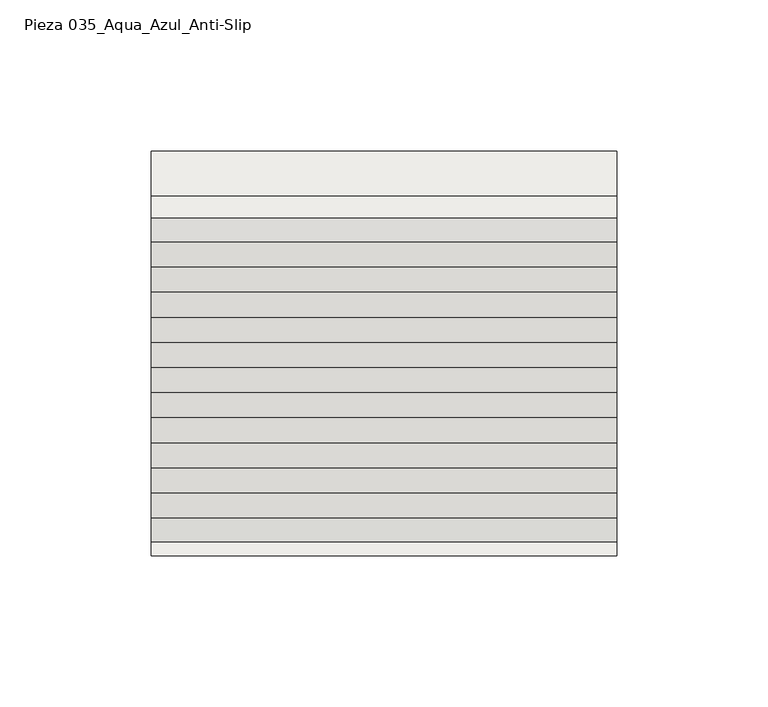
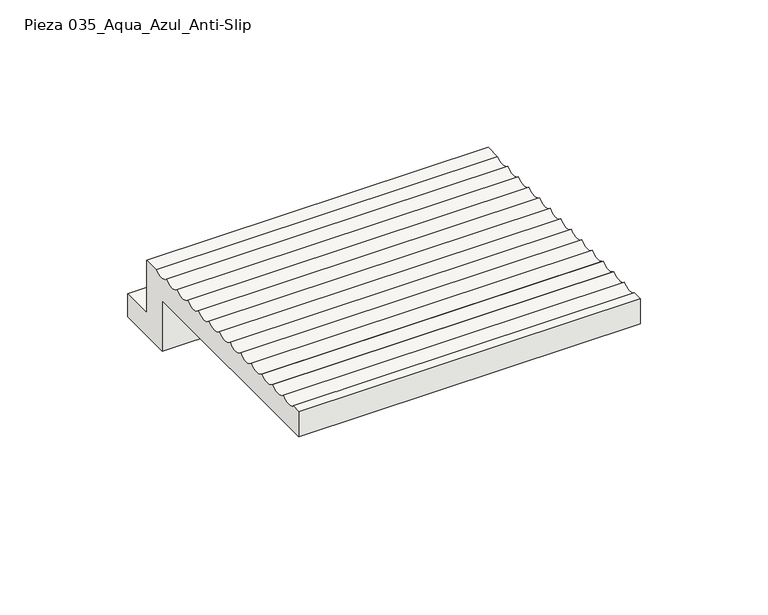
"""IFC4 building model written with IfcOpenShell, lengths in millimetres: slab geometry, ROSA GRES_035 : Pieza 035_Aqua_Azul_Anti-Slip."""

from ifc_helpers import new_model, si_unit, point, frame, frame_2d, origin, place, context, project, spatial, polyline, circle_curve, trimmed, segment, composite_curve, outline, extrude, source, transform, mapped, element, save


def pieza_035_aqua_azul_anti_slip_ff070b21(model_context):
    return source(origin(), model_context, "Body", "SweptSolid", [
        extrude(outline(composite_curve([segment(polyline([(-511.1821026, 191.3274907), (-511.1821026, 215.3274907), (-618.1821026, 215.3274907), (-618.1821026, 227.2926815), (-613.6860009, 227.2926815)]), True, "CONTINUOUS"), segment(trimmed(circle_curve(frame_2d((-609.8807503, 231.7505669)), 5.8611155), [point((-613.6860009, 227.2926815))], [point((-605.7277929, 227.6146729))], True, "CARTESIAN"), True, "CONTINUOUS"), segment(trimmed(circle_curve(frame_2d((-601.5775039, 231.7532445)), 5.8611155), [point((-605.7277929, 227.6146729))], [point((-597.4245465, 227.6173505))], True, "CARTESIAN"), True, "CONTINUOUS"), segment(trimmed(circle_curve(frame_2d((-593.2742574, 231.7559221)), 5.8611155), [point((-597.4245465, 227.6173505))], [point((-589.1213, 227.6200281))], True, "CARTESIAN"), True, "CONTINUOUS"), segment(trimmed(circle_curve(frame_2d((-584.9710109, 231.7585998)), 5.8611155), [point((-589.1213, 227.6200281))], [point((-580.8180535, 227.6227058))], True, "CARTESIAN"), True, "CONTINUOUS"), segment(trimmed(circle_curve(frame_2d((-576.6677645, 231.7612774)), 5.8611155), [point((-580.8180535, 227.6227058))], [point((-572.5148071, 227.6253834))], True, "CARTESIAN"), True, "CONTINUOUS"), segment(trimmed(circle_curve(frame_2d((-568.364518, 231.763955)), 5.8611155), [point((-572.5148071, 227.6253834))], [point((-564.2115606, 227.628061))], True, "CARTESIAN"), True, "CONTINUOUS"), segment(trimmed(circle_curve(frame_2d((-560.0612716, 231.7666327)), 5.8611155), [point((-564.2115606, 227.628061))], [point((-555.9083142, 227.6307387))], True, "CARTESIAN"), True, "CONTINUOUS"), segment(trimmed(circle_curve(frame_2d((-551.7580251, 231.7693103)), 5.8611155), [point((-555.9083142, 227.6307387))], [point((-547.6050677, 227.6334163))], True, "CARTESIAN"), True, "CONTINUOUS"), segment(trimmed(circle_curve(frame_2d((-543.4547786, 231.7719879)), 5.8611155), [point((-547.6050677, 227.6334163))], [point((-539.3018212, 227.6360939))], True, "CARTESIAN"), True, "CONTINUOUS"), segment(trimmed(circle_curve(frame_2d((-535.1515322, 231.7746656)), 5.8611155), [point((-539.3018212, 227.6360939))], [point((-530.9985748, 227.6387716))], True, "CARTESIAN"), True, "CONTINUOUS"), segment(trimmed(circle_curve(frame_2d((-526.8482857, 231.7773432)), 5.8611155), [point((-530.9985748, 227.6387716))], [point((-522.6953283, 227.6414492))], True, "CARTESIAN"), True, "CONTINUOUS"), segment(trimmed(circle_curve(frame_2d((-518.5450393, 231.7800208)), 5.8611155), [point((-522.6953283, 227.6414492))], [point((-514.3920818, 227.6441268))], True, "CARTESIAN"), True, "CONTINUOUS"), segment(trimmed(circle_curve(frame_2d((-510.2417928, 231.7826985)), 5.8611155), [point((-514.3920818, 227.6441268))], [point((-506.4334076, 227.3274907))], True, "CARTESIAN"), True, "CONTINUOUS"), segment(polyline([(-506.4334076, 227.3274907), (-499.1821026, 227.3274907), (-499.1821026, 202.3274907), (-484.1821026, 202.3274907), (-484.1821026, 191.3274907), (-511.1821026, 191.3274907)]), True, "CONTINUOUS")], self_intersect=False)), frame((0.0, 0.0, 0.0), z_axis=(1.0, 0.0, 0.0), x_axis=(0.0, 1.0, 0.0)), (0.0, 0.0, 1.0), 154.2086912),
    ])


if __name__ == "__main__":
    model = new_model("IFC4")
    model_context = context("Model", 3, world=origin())
    ifc_project = project(units=[si_unit("LENGTHUNIT", "METRE", prefix="MILLI")], contexts=[model_context])
    site = spatial("IfcSite", under=ifc_project)
    building = spatial("IfcBuilding", under=site)
    placement = place(None, origin())
    pieza_035_aqua_azul_anti_slip_shape = pieza_035_aqua_azul_anti_slip_ff070b21(model_context)
    element("IfcSlab", 1, ObjectType="ROSA GRES_035 : Pieza 035_Aqua_Azul_Anti-Slip", at=placement, inside=building, context=model_context, shape_type="MappedRepresentation", body=[
        mapped(pieza_035_aqua_azul_anti_slip_shape, transform((0.0, 0.0, 0.0), x_axis=(1.0, 0.0, 0.0), y_axis=(0.0, 1.0, 0.0), z_axis=(0.0, 0.0, 1.0))),
    ])
    save(model, "model.ifc")
